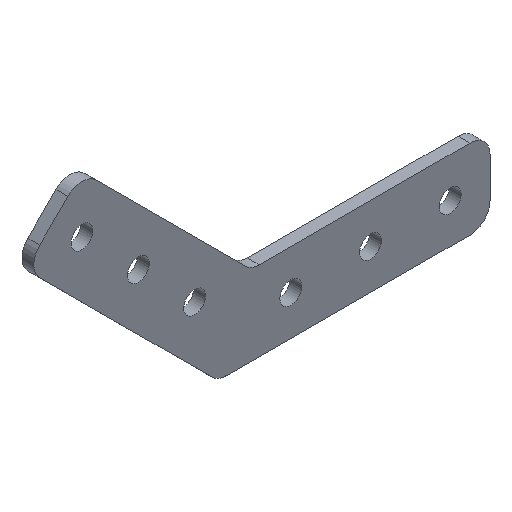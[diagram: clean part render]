
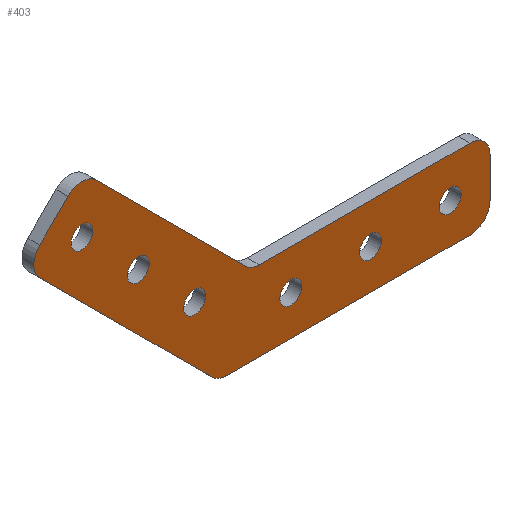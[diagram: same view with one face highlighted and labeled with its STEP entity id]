
A CAD part, isometric view. The second image highlights one B-rep face of the part: STEP entity #403.
In plain terms, the highlighted planar face has unit normal (0, -1, 0).
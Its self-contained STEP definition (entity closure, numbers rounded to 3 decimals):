
#30=FACE_BOUND('',#78,.T.);
#31=FACE_BOUND('',#79,.T.);
#32=FACE_BOUND('',#80,.T.);
#33=FACE_BOUND('',#81,.T.);
#34=FACE_BOUND('',#82,.T.);
#35=FACE_BOUND('',#83,.T.);
#42=PLANE('',#460);
#57=FACE_OUTER_BOUND('',#77,.T.);
#77=EDGE_LOOP('',(#304,#305,#306,#307,#308,#309,#310,#311,#312,#313,#314,
#315));
#78=EDGE_LOOP('',(#316));
#79=EDGE_LOOP('',(#317));
#80=EDGE_LOOP('',(#318));
#81=EDGE_LOOP('',(#319));
#82=EDGE_LOOP('',(#320));
#83=EDGE_LOOP('',(#321));
#110=LINE('',#651,#140);
#111=LINE('',#655,#141);
#112=LINE('',#659,#142);
#113=LINE('',#663,#143);
#114=LINE('',#667,#144);
#115=LINE('',#670,#145);
#140=VECTOR('',#537,10.);
#141=VECTOR('',#540,10.);
#142=VECTOR('',#543,10.);
#143=VECTOR('',#546,10.);
#144=VECTOR('',#549,10.);
#145=VECTOR('',#552,10.);
#162=CIRCLE('',#440,2.75);
#164=CIRCLE('',#443,2.75);
#166=CIRCLE('',#446,2.75);
#168=CIRCLE('',#449,2.75);
#170=CIRCLE('',#452,2.75);
#172=CIRCLE('',#455,2.75);
#175=CIRCLE('',#459,5.);
#176=CIRCLE('',#461,5.);
#177=CIRCLE('',#462,5.);
#178=CIRCLE('',#463,5.);
#179=CIRCLE('',#464,5.);
#180=CIRCLE('',#465,5.);
#186=VERTEX_POINT('',#605);
#188=VERTEX_POINT('',#611);
#190=VERTEX_POINT('',#617);
#192=VERTEX_POINT('',#623);
#194=VERTEX_POINT('',#629);
#196=VERTEX_POINT('',#635);
#200=VERTEX_POINT('',#644);
#201=VERTEX_POINT('',#646);
#202=VERTEX_POINT('',#650);
#203=VERTEX_POINT('',#652);
#204=VERTEX_POINT('',#654);
#205=VERTEX_POINT('',#656);
#206=VERTEX_POINT('',#658);
#207=VERTEX_POINT('',#660);
#208=VERTEX_POINT('',#662);
#209=VERTEX_POINT('',#664);
#210=VERTEX_POINT('',#666);
#211=VERTEX_POINT('',#668);
#222=EDGE_CURVE('',#186,#186,#162,.T.);
#225=EDGE_CURVE('',#188,#188,#164,.T.);
#228=EDGE_CURVE('',#190,#190,#166,.T.);
#231=EDGE_CURVE('',#192,#192,#168,.T.);
#234=EDGE_CURVE('',#194,#194,#170,.T.);
#237=EDGE_CURVE('',#196,#196,#172,.T.);
#242=EDGE_CURVE('',#200,#201,#175,.T.);
#244=EDGE_CURVE('',#202,#200,#110,.T.);
#245=EDGE_CURVE('',#203,#202,#176,.T.);
#246=EDGE_CURVE('',#204,#203,#111,.T.);
#247=EDGE_CURVE('',#205,#204,#177,.T.);
#248=EDGE_CURVE('',#206,#205,#112,.T.);
#249=EDGE_CURVE('',#207,#206,#178,.T.);
#250=EDGE_CURVE('',#208,#207,#113,.T.);
#251=EDGE_CURVE('',#209,#208,#179,.T.);
#252=EDGE_CURVE('',#210,#209,#114,.T.);
#253=EDGE_CURVE('',#211,#210,#180,.T.);
#254=EDGE_CURVE('',#201,#211,#115,.T.);
#304=ORIENTED_EDGE('',*,*,#242,.F.);
#305=ORIENTED_EDGE('',*,*,#244,.F.);
#306=ORIENTED_EDGE('',*,*,#245,.F.);
#307=ORIENTED_EDGE('',*,*,#246,.F.);
#308=ORIENTED_EDGE('',*,*,#247,.F.);
#309=ORIENTED_EDGE('',*,*,#248,.F.);
#310=ORIENTED_EDGE('',*,*,#249,.F.);
#311=ORIENTED_EDGE('',*,*,#250,.F.);
#312=ORIENTED_EDGE('',*,*,#251,.F.);
#313=ORIENTED_EDGE('',*,*,#252,.F.);
#314=ORIENTED_EDGE('',*,*,#253,.F.);
#315=ORIENTED_EDGE('',*,*,#254,.F.);
#316=ORIENTED_EDGE('',*,*,#222,.T.);
#317=ORIENTED_EDGE('',*,*,#225,.T.);
#318=ORIENTED_EDGE('',*,*,#228,.T.);
#319=ORIENTED_EDGE('',*,*,#231,.T.);
#320=ORIENTED_EDGE('',*,*,#234,.T.);
#321=ORIENTED_EDGE('',*,*,#237,.T.);
#403=ADVANCED_FACE('',(#57,#30,#31,#32,#33,#34,#35),#42,.F.);
#440=AXIS2_PLACEMENT_3D('',#606,#487,#488);
#443=AXIS2_PLACEMENT_3D('',#612,#494,#495);
#446=AXIS2_PLACEMENT_3D('',#618,#501,#502);
#449=AXIS2_PLACEMENT_3D('',#624,#508,#509);
#452=AXIS2_PLACEMENT_3D('',#630,#515,#516);
#455=AXIS2_PLACEMENT_3D('',#636,#522,#523);
#459=AXIS2_PLACEMENT_3D('',#647,#532,#533);
#460=AXIS2_PLACEMENT_3D('',#649,#535,#536);
#461=AXIS2_PLACEMENT_3D('',#653,#538,#539);
#462=AXIS2_PLACEMENT_3D('',#657,#541,#542);
#463=AXIS2_PLACEMENT_3D('',#661,#544,#545);
#464=AXIS2_PLACEMENT_3D('',#665,#547,#548);
#465=AXIS2_PLACEMENT_3D('',#669,#550,#551);
#487=DIRECTION('center_axis',(0.,1.,0.));
#488=DIRECTION('ref_axis',(-1.,0.,0.));
#494=DIRECTION('center_axis',(0.,1.,0.));
#495=DIRECTION('ref_axis',(-1.,0.,0.));
#501=DIRECTION('center_axis',(0.,1.,0.));
#502=DIRECTION('ref_axis',(-1.,0.,0.));
#508=DIRECTION('center_axis',(0.,1.,0.));
#509=DIRECTION('ref_axis',(-1.,0.,0.));
#515=DIRECTION('center_axis',(0.,1.,0.));
#516=DIRECTION('ref_axis',(-1.,0.,0.));
#522=DIRECTION('center_axis',(0.,1.,0.));
#523=DIRECTION('ref_axis',(-1.,0.,0.));
#532=DIRECTION('center_axis',(0.,1.,0.));
#533=DIRECTION('ref_axis',(0.707,0.,-0.707));
#535=DIRECTION('center_axis',(0.,1.,0.));
#536=DIRECTION('ref_axis',(0.,0.,1.));
#537=DIRECTION('',(0.,0.,-1.));
#538=DIRECTION('center_axis',(0.,1.,0.));
#539=DIRECTION('ref_axis',(0.707,0.,0.707));
#540=DIRECTION('',(1.,0.,0.));
#541=DIRECTION('center_axis',(0.,-1.,0.));
#542=DIRECTION('ref_axis',(-0.383,0.,-0.924));
#543=DIRECTION('',(0.707,0.,-0.707));
#544=DIRECTION('center_axis',(0.,1.,0.));
#545=DIRECTION('ref_axis',(0.,0.,1.));
#546=DIRECTION('',(0.707,0.,0.707));
#547=DIRECTION('center_axis',(0.,1.,0.));
#548=DIRECTION('ref_axis',(-1.,0.,0.));
#549=DIRECTION('',(-0.707,0.,0.707));
#550=DIRECTION('center_axis',(0.,1.,0.));
#551=DIRECTION('ref_axis',(-0.383,0.,-0.924));
#552=DIRECTION('',(-1.,0.,0.));
#605=CARTESIAN_POINT('',(-17.25,0.,34.142));
#606=CARTESIAN_POINT('Origin',(-20.,0.,34.142));
#611=CARTESIAN_POINT('',(-31.392,0.,48.284));
#612=CARTESIAN_POINT('Origin',(-34.142,0.,48.284));
#617=CARTESIAN_POINT('',(-3.108,0.,20.));
#618=CARTESIAN_POINT('Origin',(-5.858,0.,20.));
#623=CARTESIAN_POINT('',(21.034,0.,10.));
#624=CARTESIAN_POINT('Origin',(18.284,0.,10.));
#629=CARTESIAN_POINT('',(41.034,0.,10.));
#630=CARTESIAN_POINT('Origin',(38.284,0.,10.));
#635=CARTESIAN_POINT('',(61.034,0.,10.));
#636=CARTESIAN_POINT('Origin',(58.284,0.,10.));
#644=CARTESIAN_POINT('',(68.284,0.,5.));
#646=CARTESIAN_POINT('',(63.284,0.,0.));
#647=CARTESIAN_POINT('Origin',(63.284,0.,5.));
#649=CARTESIAN_POINT('Origin',(10.,0.,31.213));
#650=CARTESIAN_POINT('',(68.284,0.,15.));
#651=CARTESIAN_POINT('',(68.284,0.,20.));
#652=CARTESIAN_POINT('',(63.284,0.,20.));
#653=CARTESIAN_POINT('Origin',(63.284,0.,15.));
#654=CARTESIAN_POINT('',(10.355,0.,20.));
#655=CARTESIAN_POINT('',(8.284,0.,20.));
#656=CARTESIAN_POINT('',(6.82,0.,21.464));
#657=CARTESIAN_POINT('Origin',(10.355,0.,25.));
#658=CARTESIAN_POINT('',(-30.607,0.,58.891));
#659=CARTESIAN_POINT('',(-34.142,0.,62.426));
#660=CARTESIAN_POINT('',(-37.678,0.,58.891));
#661=CARTESIAN_POINT('Origin',(-34.142,0.,55.355));
#662=CARTESIAN_POINT('',(-44.749,0.,51.82));
#663=CARTESIAN_POINT('',(-48.284,0.,48.284));
#664=CARTESIAN_POINT('',(-44.749,0.,44.749));
#665=CARTESIAN_POINT('Origin',(-41.213,0.,48.284));
#666=CARTESIAN_POINT('',(-1.464,0.,1.464));
#667=CARTESIAN_POINT('',(0.,0.,0.));
#668=CARTESIAN_POINT('',(2.071,0.,0.));
#669=CARTESIAN_POINT('Origin',(2.071,0.,5.));
#670=CARTESIAN_POINT('',(68.284,0.,0.));
